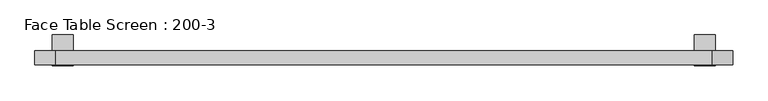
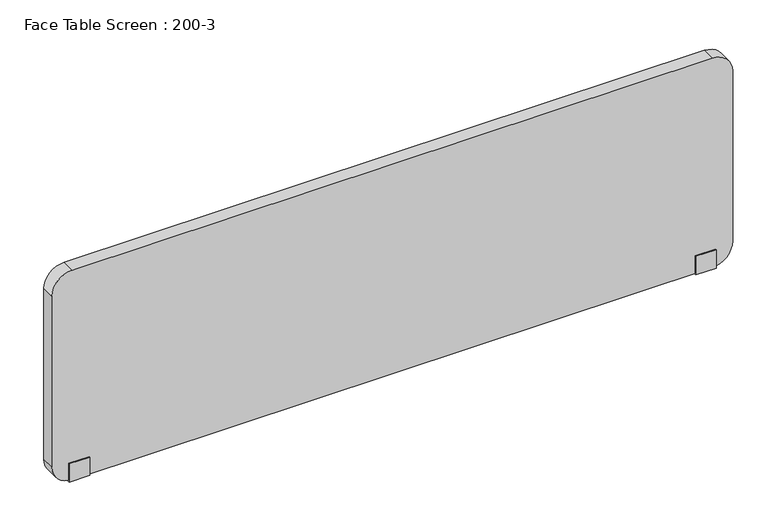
"""IFC4 building model written with IfcOpenShell, lengths in millimetres: furniture geometry, Face Table Screen : 200-3."""

import ifcopenshell
import ifcopenshell.guid

model = None  # the IFC model being written
_history = None  # IfcOwnerHistory: only IFC2X3 demands one
_inside = {}  # id of a spatial element -> (the spatial element, [elements in it])
_under = {}  # id of a project, library or spatial element -> (it, [spatial elements below it])
_declared = {}  # id of a project -> (the project, [libraries it declares])
_typed = {}  # id of a type object -> (the type object, [elements of that type])
_made_of = {}  # id of a material, layer set ... -> (it, [elements and type objects made of it])


def new_model(schema):
    """Start an empty IFC model of exactly this schema.

    Asked for "IFC4X3", IfcOpenShell would pick the latest addendum, in which some entities
    have other attributes; the version numbers below select the first issue.
    IFC2X3 requires an IfcOwnerHistory on every rooted entity: one is made here for all.
    """
    global model, _history
    if schema == "IFC4X3":
        model = ifcopenshell.file(schema_version=(4, 3, 0, 0))
    else:
        model = ifcopenshell.file(schema=schema)
    _inside.clear()
    _under.clear()
    _declared.clear()
    _typed.clear()
    _made_of.clear()
    _history = None
    if model.schema == "IFC2X3":
        org = make("IfcOrganization", Name="unknown")
        user = make(
            "IfcPersonAndOrganization",
            ThePerson=make("IfcPerson", FamilyName="unknown"),
            TheOrganization=org,
        )
        app = make(
            "IfcApplication",
            ApplicationDeveloper=org,
            Version="unknown",
            ApplicationFullName="unknown",
            ApplicationIdentifier="unknown",
        )
        _history = make(
            "IfcOwnerHistory",
            OwningUser=user,
            OwningApplication=app,
            ChangeAction="ADDED",
            CreationDate=0,
        )
    return model


def make(cls, **values):
    """One entity of the class cls with the attributes given. An attribute that is None is left unset."""
    return model.create_entity(
        cls, **{name: value for name, value in values.items() if value is not None}
    )


def rooted(cls, **values):
    """An entity with a GlobalId (a new one), such as an element, a storey or a relation."""
    return make(cls, GlobalId=ifcopenshell.guid.new(), OwnerHistory=_history, **values)


def si_unit(unit_type, name, prefix=None):
    """IfcSIUnit, for example si_unit("LENGTHUNIT", "METRE", prefix="MILLI")."""
    return make("IfcSIUnit", UnitType=unit_type, Prefix=prefix, Name=name)


def assignment(units):
    """IfcUnitAssignment: the units of a project."""
    return None if units is None else make("IfcUnitAssignment", Units=units)


def point(xyz):
    """IfcCartesianPoint."""
    return None if xyz is None else make("IfcCartesianPoint", Coordinates=xyz)


def direction(xyz):
    """IfcDirection."""
    return None if xyz is None else make("IfcDirection", DirectionRatios=xyz)


def frame(location, z_axis=None, x_axis=None):
    """IfcAxis2Placement3D, a coordinate frame: its origin and axes. An axis left out is left unset."""
    return make(
        "IfcAxis2Placement3D",
        Location=point(location),
        Axis=direction(z_axis),
        RefDirection=direction(x_axis),
    )


def frame_2d(location, x_axis=None):
    """IfcAxis2Placement2D, a coordinate frame in the plane: its origin and x axis."""
    return make(
        "IfcAxis2Placement2D", Location=point(location), RefDirection=direction(x_axis)
    )


def origin():
    """The frame at (0, 0, 0) with its axes left unset."""
    return frame((0.0, 0.0, 0.0))


def place(relative_to, where):
    """IfcLocalPlacement: puts the frame where relative to a parent placement (None: the world)."""
    return make(
        "IfcLocalPlacement", PlacementRelTo=relative_to, RelativePlacement=where
    )


def context(
    kind, dimensions, precision=None, world=None, true_north=None, identifier=None
):
    """IfcGeometricRepresentationContext, for example the 3D "Model" context."""
    return make(
        "IfcGeometricRepresentationContext",
        ContextIdentifier=identifier,
        ContextType=kind,
        CoordinateSpaceDimension=dimensions,
        Precision=precision,
        WorldCoordinateSystem=world,
        TrueNorth=true_north,
    )


def project(units=None, contexts=None):
    """IfcProject with its units and contexts."""
    return rooted(
        "IfcProject",
        Name="project",
        RepresentationContexts=contexts,
        UnitsInContext=assignment(units),
    )


def spatial(cls, under=None, at=None, **own):
    """A site, building, storey or space (cls), placed at a placement, below another one or the project."""
    s = rooted(cls, ObjectPlacement=at, **own)
    if under is not None:
        _under.setdefault(under.id(), (under, []))[1].append(s)
    return s


def polyline(points):
    """IfcPolyline through the points."""
    return make("IfcPolyline", Points=[point(p) for p in points])


def circle_curve(where, radius):
    """IfcCircle in the frame where."""
    return make("IfcCircle", Position=where, Radius=radius)


def trimmed(basis, trim1, trim2, sense, master):
    """IfcTrimmedCurve: the piece of a basis curve between two trims."""
    return make(
        "IfcTrimmedCurve",
        BasisCurve=basis,
        Trim1=trim1,
        Trim2=trim2,
        SenseAgreement=sense,
        MasterRepresentation=master,
    )


def segment(curve, same_sense, transition):
    """IfcCompositeCurveSegment."""
    return make(
        "IfcCompositeCurveSegment",
        Transition=transition,
        SameSense=same_sense,
        ParentCurve=curve,
    )


def composite_curve(segments, self_intersect=None):
    """IfcCompositeCurve: segments joined end to end."""
    return make("IfcCompositeCurve", Segments=segments, SelfIntersect=self_intersect)


def outline(outer, holes=None, kind="AREA"):
    """IfcArbitraryClosedProfileDef: a profile drawn as a closed curve; with holes, ...WithVoids."""
    if holes is None:
        return make("IfcArbitraryClosedProfileDef", ProfileType=kind, OuterCurve=outer)
    return make(
        "IfcArbitraryProfileDefWithVoids",
        ProfileType=kind,
        OuterCurve=outer,
        InnerCurves=holes,
    )


def extrude(swept, where, along, depth):
    """IfcExtrudedAreaSolid: the profile swept, set in the frame where, extruded along a direction by depth."""
    return make(
        "IfcExtrudedAreaSolid",
        SweptArea=swept,
        Position=where,
        ExtrudedDirection=direction(along),
        Depth=depth,
    )


def shape(context_of_items, identifier, shape_type, items):
    """IfcShapeRepresentation: the items that make up one representation, for example the "Body"."""
    return make(
        "IfcShapeRepresentation",
        ContextOfItems=context_of_items,
        RepresentationIdentifier=identifier,
        RepresentationType=shape_type,
        Items=items,
    )


def source(mapping_origin, context_of_items, identifier, shape_type, items):
    """IfcRepresentationMap: a shape defined once, which mapped items show again and again."""
    return make(
        "IfcRepresentationMap",
        MappingOrigin=mapping_origin,
        MappedRepresentation=shape(context_of_items, identifier, shape_type, items),
    )


def transform(
    local_origin,
    x_axis=None,
    y_axis=None,
    z_axis=None,
    scale=None,
    scale2=None,
    scale3=None,
    uniform=True,
):
    """IfcCartesianTransformationOperator3D, or its non-uniform kind. x_axis, y_axis, z_axis: its Axis1, 2, 3."""
    if uniform:
        return make(
            "IfcCartesianTransformationOperator3D",
            Axis1=direction(x_axis),
            Axis2=direction(y_axis),
            LocalOrigin=point(local_origin),
            Scale=scale,
            Axis3=direction(z_axis),
        )
    return make(
        "IfcCartesianTransformationOperator3DnonUniform",
        Axis1=direction(x_axis),
        Axis2=direction(y_axis),
        LocalOrigin=point(local_origin),
        Scale=scale,
        Axis3=direction(z_axis),
        Scale2=scale2,
        Scale3=scale3,
    )


def mapped(mapping_source, mapping_target):
    """IfcMappedItem: shows the shape of a source again, moved by a transform."""
    return make(
        "IfcMappedItem", MappingSource=mapping_source, MappingTarget=mapping_target
    )


def made_of(thing, what):
    """Note that an element or type object is made of a material, layer set ...; save() writes the relation."""
    if what is not None:
        _made_of.setdefault(what.id(), (what, []))[1].append(thing)
    return thing


def element(
    cls,
    number,
    at=None,
    inside=None,
    cuts=None,
    type_object=None,
    material=None,
    context=None,
    identifier="Body",
    shape_type=None,
    held_by="IfcProductDefinitionShape",
    body=None,
    shapes=None,
    **own,
):
    """One element of the class cls, such as IfcWall. Its Tag is "e" and its number.

    at: its placement. inside: the storey or other place that contains it. cuts: it is an
    opening in that element (IfcRelVoidsElement). A single representation is given by context,
    identifier, shape_type and body (its items); several are given by shapes. held_by: the class
    of the entity that holds the representations. save() writes the other relations.
    """
    e = rooted(cls, Tag="e%d" % number, ObjectPlacement=at, **own)
    if body is not None:
        shapes = [shape(context, identifier, shape_type, body)]
    if shapes is not None:
        e.Representation = make(held_by, Representations=shapes)
    if inside is not None:
        _inside.setdefault(inside.id(), (inside, []))[1].append(e)
    if cuts is not None:
        rooted(
            "IfcRelVoidsElement", RelatingBuildingElement=cuts, RelatedOpeningElement=e
        )
    if type_object is not None:
        _typed.setdefault(type_object.id(), (type_object, []))[1].append(e)
    return made_of(e, material)


def aggregate(whole, parts):
    """IfcRelAggregates: a whole, such as a stair, and the parts it consists of."""
    return rooted("IfcRelAggregates", RelatingObject=whole, RelatedObjects=parts)


def save(model, path):
    """Write the relations noted so far, then the file.

    IfcRelAggregates (storeys below a building ...), IfcRelContainedInSpatialStructure (elements
    in a storey), IfcRelDefinesByType, IfcRelAssociatesMaterial and IfcRelDeclares: one each for
    every whole, place, type object, material and project.
    """
    for whole, parts in _under.values():
        aggregate(whole, parts)
    for where, things in _inside.values():
        rooted(
            "IfcRelContainedInSpatialStructure",
            RelatedElements=things,
            RelatingStructure=where,
        )
    for kind, things in _typed.values():
        rooted("IfcRelDefinesByType", RelatedObjects=things, RelatingType=kind)
    for what, things in _made_of.values():
        rooted("IfcRelAssociatesMaterial", RelatedObjects=things, RelatingMaterial=what)
    for by, libraries in _declared.values():
        rooted("IfcRelDeclares", RelatingContext=by, RelatedDefinitions=libraries)
    model.write(path)


def face_table_screen_200_3_f1fb1aee(model_context):
    return source(origin(), model_context, "Body", "SweptSolid", [
        extrude(outline(polyline([(-22.9999947, -256.0), (-22.9999997, -199.0433898), (-20.0, -199.0433898), (-20.0, -253.0), (20.0, -253.0), (20.0, -22.0), (65.0, -22.0), (65.0, -25.0433898), (23.0000062, -25.0433898), (22.9999947, -256.0), (-22.9999947, -256.0)])), frame((890.0, 0.0, 0.0), z_axis=(1.0, 0.0, 0.0), x_axis=(0.0, 1.0, 0.0)), (0.0, 0.0, 1.0), 60.0),
        extrude(outline(polyline([(-22.9999947, -256.0), (-22.9999997, -199.0433898), (-20.0, -199.0433898), (-20.0, -253.0), (20.0, -253.0), (20.0, -22.0), (65.0, -22.0), (65.0, -25.0433898), (23.0000062, -25.0433898), (22.9999947, -256.0), (-22.9999947, -256.0)])), frame((-950.0, 0.0, 0.0), z_axis=(1.0, 0.0, 0.0), x_axis=(0.0, 1.0, 0.0)), (0.0, 0.0, 1.0), 60.0),
        extrude(outline(composite_curve([segment(polyline([(397.0, 940.0), (397.0, -940.0)]), True, "CONTINUOUS"), segment(trimmed(circle_curve(frame_2d((337.0, -940.0)), 60.0), [point((397.0, -940.0))], [point((337.0, -1000.0))], False, "CARTESIAN"), True, "CONTINUOUS"), segment(polyline([(337.0, -1000.0), (-193.0, -1000.0)]), True, "CONTINUOUS"), segment(trimmed(circle_curve(frame_2d((-193.0, -940.0)), 60.0), [point((-193.0, -1000.0))], [point((-253.0, -940.0))], False, "CARTESIAN"), True, "CONTINUOUS"), segment(polyline([(-253.0, -940.0), (-253.0, 940.0)]), True, "CONTINUOUS"), segment(trimmed(circle_curve(frame_2d((-193.0, 940.0)), 60.0), [point((-253.0, 940.0))], [point((-193.0, 1000.0))], False, "CARTESIAN"), True, "CONTINUOUS"), segment(polyline([(-193.0, 1000.0), (337.0, 1000.0)]), True, "CONTINUOUS"), segment(trimmed(circle_curve(frame_2d((337.0, 940.0)), 60.0), [point((337.0, 1000.0))], [point((397.0, 940.0))], False, "CARTESIAN"), True, "CONTINUOUS")], self_intersect=False)), frame((0.0, -20.0, 0.0), z_axis=(0.0, 1.0, 0.0), x_axis=(0.0, 0.0, 1.0)), (0.0, 0.0, 1.0), 40.0),
    ])


if __name__ == "__main__":
    model = new_model("IFC4")
    model_context = context("Model", 3, world=origin())
    ifc_project = project(units=[si_unit("LENGTHUNIT", "METRE", prefix="MILLI")], contexts=[model_context])
    site = spatial("IfcSite", under=ifc_project)
    building = spatial("IfcBuilding", under=site)
    placement = place(None, origin())
    face_table_screen_200_3_shape = face_table_screen_200_3_f1fb1aee(model_context)
    element("IfcFurniture", 1, ObjectType="Face Table Screen : 200-3", at=placement, inside=building, context=model_context, shape_type="MappedRepresentation", body=[
        mapped(face_table_screen_200_3_shape, transform((0.0, 0.0, 0.0), x_axis=(1.0, 0.0, 0.0), y_axis=(0.0, 1.0, 0.0), z_axis=(0.0, 0.0, 1.0))),
    ])
    save(model, "model.ifc")
